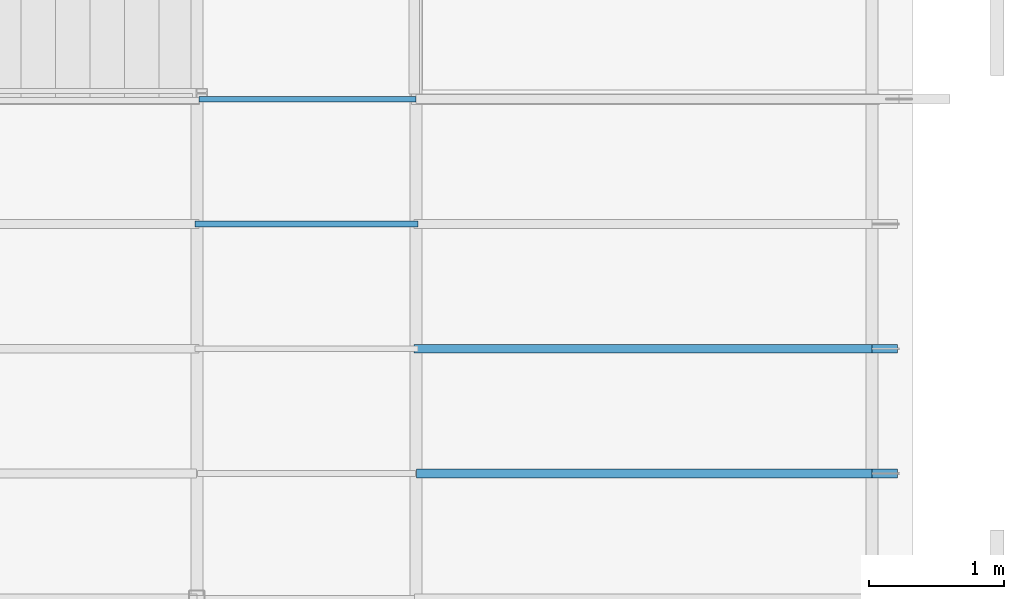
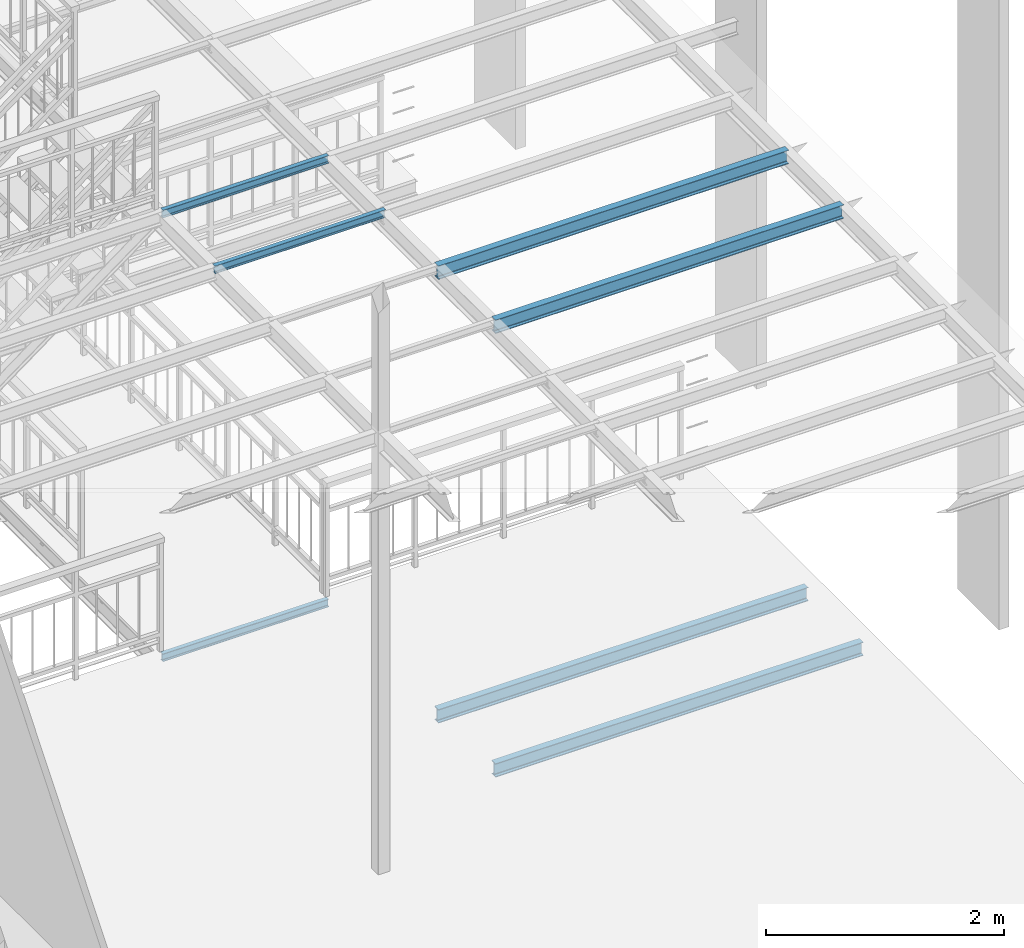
# One storey, part 8 of 33: 7 beams.
"""IFC2X3 building model written with IfcOpenShell, lengths in metres."""

from ifc_helpers import new_model, entity, si_unit, converted_unit, derived_unit, direction, frame, frame_2d, origin, place, context, subcontext, project, spatial, polyline, circle_curve, parameter, trimmed, segment, composite_curve, outline, extrude, material, type_object, element, save


model = new_model("IFC2X3")

# Units and contexts
model_context = context("Model", 3, precision=1e-05, world=origin(), true_north=direction((6.12303176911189e-17, 1.0)))
body_context = subcontext(model_context, "Body", "Model", "MODEL_VIEW")
ifc_project = project(units=[si_unit("LENGTHUNIT", "METRE"), si_unit("AREAUNIT", "SQUARE_METRE"), si_unit("VOLUMEUNIT", "CUBIC_METRE"), converted_unit("PLANEANGLEUNIT", "DEGREE", entity("IfcRatioMeasure", 0.0174532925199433), si_unit("PLANEANGLEUNIT", "RADIAN"), dimensions=[0, 0, 0, 0, 0, 0, 0]), si_unit("MASSUNIT", "GRAM", prefix="KILO"), derived_unit("MASSDENSITYUNIT", [(si_unit("MASSUNIT", "GRAM", prefix="KILO"), 1), (si_unit("LENGTHUNIT", "METRE"), -3)]), derived_unit("MOMENTOFINERTIAUNIT", [(si_unit("LENGTHUNIT", "METRE"), 4)]), si_unit("TIMEUNIT", "SECOND"), si_unit("FREQUENCYUNIT", "HERTZ"), si_unit("THERMODYNAMICTEMPERATUREUNIT", "DEGREE_CELSIUS"), derived_unit("THERMALTRANSMITTANCEUNIT", [(si_unit("MASSUNIT", "GRAM", prefix="KILO"), 1), (si_unit("THERMODYNAMICTEMPERATUREUNIT", "KELVIN"), -1), (si_unit("TIMEUNIT", "SECOND"), -3)]), derived_unit("VOLUMETRICFLOWRATEUNIT", [(si_unit("LENGTHUNIT", "METRE"), 3), (si_unit("TIMEUNIT", "SECOND"), -1)]), si_unit("ELECTRICCURRENTUNIT", "AMPERE"), si_unit("ELECTRICVOLTAGEUNIT", "VOLT"), si_unit("POWERUNIT", "WATT"), si_unit("FORCEUNIT", "NEWTON", prefix="KILO"), si_unit("ILLUMINANCEUNIT", "LUX"), si_unit("LUMINOUSFLUXUNIT", "LUMEN"), si_unit("LUMINOUSINTENSITYUNIT", "CANDELA"), derived_unit("USERDEFINED", [(si_unit("MASSUNIT", "GRAM", prefix="KILO"), -1), (si_unit("LENGTHUNIT", "METRE"), -2), (si_unit("TIMEUNIT", "SECOND"), 3), (si_unit("LUMINOUSFLUXUNIT", "LUMEN"), 1)]), derived_unit("LINEARVELOCITYUNIT", [(si_unit("LENGTHUNIT", "METRE"), 1), (si_unit("TIMEUNIT", "SECOND"), -1)]), si_unit("PRESSUREUNIT", "PASCAL"), derived_unit("USERDEFINED", [(si_unit("LENGTHUNIT", "METRE"), -2), (si_unit("MASSUNIT", "GRAM", prefix="KILO"), 1), (si_unit("TIMEUNIT", "SECOND"), -2)]), derived_unit("LINEARFORCEUNIT", [(si_unit("MASSUNIT", "GRAM", prefix="KILO"), 1), (si_unit("LENGTHUNIT", "METRE"), 1), (si_unit("TIMEUNIT", "SECOND"), -2), (si_unit("LENGTHUNIT", "METRE"), -1)]), derived_unit("PLANARFORCEUNIT", [(si_unit("MASSUNIT", "GRAM", prefix="KILO"), 1), (si_unit("LENGTHUNIT", "METRE"), 1), (si_unit("TIMEUNIT", "SECOND"), -2), (si_unit("LENGTHUNIT", "METRE"), -2)])], contexts=[model_context])

# Site, building, storey
site_placement = place(None, origin())
site = spatial("IfcSite", under=ifc_project, at=site_placement, Name="Superficie", CompositionType="ELEMENT")
building_placement = place(site_placement, origin())
building = spatial("IfcBuilding", under=site, at=building_placement, Name="Telegestiones", CompositionType="ELEMENT")
storey_placement = place(building_placement, frame((0.0, 0.0, 4.94)))
storey = spatial("IfcBuildingStorey", under=building, at=storey_placement, Name="Nivel 1_NPT", CompositionType="ELEMENT", Elevation=4.94)

# Beams
ifc_material = material(Name="Metal - Acero - 345 MPa")
beam_type_1 = type_object("IfcBeamType", Name="IPN - Secciones en I con alas cónicas:IPN 140", PredefinedType="NOTDEFINED")
beam_1_placement = place(storey_placement, frame((11.2748126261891, -0.370899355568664, 0.0)))
element("IfcBeam", 1, at=beam_1_placement, inside=storey, type_object=beam_type_1, material=ifc_material, Name="IPN - Secciones en I con alas cónicas:IPN 140", ObjectType="IPN - Secciones en I con alas cónicas:IPN 140", context=body_context, shape_type="SweptSolid", body=[
    extrude(outline(composite_curve([segment(polyline([(0.0666671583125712, -0.0330000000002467), (0.0699999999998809, -0.0330000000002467)]), True, "CONTINUOUS"), segment(polyline([(0.0699999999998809, -0.0330000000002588), (0.0700000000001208, 0.0329999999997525)]), True, "CONTINUOUS"), segment(polyline([(0.0700000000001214, 0.0329999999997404), (0.0666671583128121, 0.0329999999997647)]), True, "CONTINUOUS"), segment(trimmed(circle_curve(frame_2d((0.0666671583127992, 0.0295999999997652), x_axis=(0.0, 1.0)), 0.00339999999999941), [parameter(0.0)], [parameter(82.0303896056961)], True, "PARAMETER"), True, "CONTINUOUS"), segment(polyline([(0.0632999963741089, 0.0300714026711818), (0.0601763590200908, 0.00775970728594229)]), True, "CONTINUOUS"), segment(trimmed(circle_curve(frame_2d((0.0545314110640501, 0.00854999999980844), x_axis=(0.990341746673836, -0.138647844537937)), 0.0056999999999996), [parameter(277.969610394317)], [parameter(0.0)], True, "PARAMETER"), False, "CONTINUOUS"), segment(polyline([(0.0545314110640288, 0.00284999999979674), (-0.054531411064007, 0.00285000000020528)]), True, "CONTINUOUS"), segment(trimmed(circle_curve(frame_2d((-0.0545314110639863, 0.00855000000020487), x_axis=(0.0, -1.0)), 0.00569999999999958), [parameter(277.969610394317)], [parameter(0.0)], True, "PARAMETER"), False, "CONTINUOUS"), segment(polyline([(-0.0601763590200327, 0.00775970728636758), (-0.0632999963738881, 0.030071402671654)]), True, "CONTINUOUS"), segment(trimmed(circle_curve(frame_2d((-0.066667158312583, 0.0296000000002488), x_axis=(0.990341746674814, 0.138647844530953)), 0.00340000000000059), [parameter(0.0)], [parameter(82.0303896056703)], True, "PARAMETER"), True, "CONTINUOUS"), segment(polyline([(-0.0666671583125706, 0.0330000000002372), (-0.0699999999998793, 0.0330000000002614)]), True, "CONTINUOUS"), segment(polyline([(-0.0699999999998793, 0.0330000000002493), (-0.0700000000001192, -0.0329999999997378)]), True, "CONTINUOUS"), segment(polyline([(-0.0700000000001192, -0.0329999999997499), (-0.0666671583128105, -0.0329999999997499)]), True, "CONTINUOUS"), segment(trimmed(circle_curve(frame_2d((-0.0666671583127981, -0.0295999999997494), x_axis=(0.0, -1.0)), 0.00340000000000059), [parameter(0.0)], [parameter(82.0303896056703)], True, "PARAMETER"), True, "CONTINUOUS"), segment(polyline([(-0.0632999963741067, -0.0300714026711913), (-0.0601763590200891, -0.00775970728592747)]), True, "CONTINUOUS"), segment(trimmed(circle_curve(frame_2d((-0.0545314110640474, -0.00854999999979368), x_axis=(-0.990341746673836, 0.138647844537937)), 0.0056999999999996), [parameter(277.969610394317)], [parameter(0.0)], True, "PARAMETER"), False, "CONTINUOUS"), segment(polyline([(-0.0545314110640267, -0.00284999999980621), (0.0545314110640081, -0.00285000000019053)]), True, "CONTINUOUS"), segment(trimmed(circle_curve(frame_2d((0.0545314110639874, -0.00855000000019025), x_axis=(0.0, 1.0)), 0.00569999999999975), [parameter(277.969610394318)], [parameter(0.0)], True, "PARAMETER"), False, "CONTINUOUS"), segment(polyline([(0.0601763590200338, -0.00775970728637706), (0.0632999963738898, -0.0300714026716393)]), True, "CONTINUOUS"), segment(trimmed(circle_curve(frame_2d((0.0666671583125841, -0.0296000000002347), x_axis=(-0.990341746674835, -0.138647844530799)), 0.0033999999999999), [parameter(0.0)], [parameter(82.0303896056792)], True, "PARAMETER"), True, "CONTINUOUS")], self_intersect=False)), frame((-0.014999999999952, 0.0, -0.100000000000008), z_axis=(1.0, 0.0, 0.0), x_axis=(0.0, 0.0, -1.0)), (0.0, 0.0, 1.0), 3.59499999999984),
])
beam_2_placement = place(storey_placement, frame((11.2748126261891, -1.2986460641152, 0.0)))
element("IfcBeam", 2, at=beam_2_placement, inside=storey, type_object=beam_type_1, material=ifc_material, Name="IPN - Secciones en I con alas cónicas:IPN 140", ObjectType="IPN - Secciones en I con alas cónicas:IPN 140", context=body_context, shape_type="SweptSolid", body=[
    extrude(outline(composite_curve([segment(polyline([(0.0666671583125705, -0.0330000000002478), (0.0699999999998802, -0.0330000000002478)]), True, "CONTINUOUS"), segment(polyline([(0.0699999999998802, -0.03300000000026), (0.0700000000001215, 0.0329999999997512)]), True, "CONTINUOUS"), segment(polyline([(0.070000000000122, 0.0329999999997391), (0.0666671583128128, 0.0329999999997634)]), True, "CONTINUOUS"), segment(trimmed(circle_curve(frame_2d((0.0666671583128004, 0.0295999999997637), x_axis=(0.0, 1.0)), 0.00339999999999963), [parameter(0.0)], [parameter(82.0303896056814)], True, "PARAMETER"), True, "CONTINUOUS"), segment(polyline([(0.0632999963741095, 0.0300714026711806), (0.0601763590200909, 0.007759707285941)]), True, "CONTINUOUS"), segment(trimmed(circle_curve(frame_2d((0.0545314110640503, 0.0085499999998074), x_axis=(0.990341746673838, -0.138647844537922)), 0.0056999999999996), [parameter(277.969610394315)], [parameter(0.0)], True, "PARAMETER"), False, "CONTINUOUS"), segment(polyline([(0.0545314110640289, 0.0028499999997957), (-0.054531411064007, 0.00285000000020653)]), True, "CONTINUOUS"), segment(trimmed(circle_curve(frame_2d((-0.0545314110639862, 0.00855000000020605), x_axis=(0.0, -1.0)), 0.00569999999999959), [parameter(277.969610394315)], [parameter(0.0)], True, "PARAMETER"), False, "CONTINUOUS"), segment(polyline([(-0.0601763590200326, 0.00775970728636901), (-0.0632999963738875, 0.0300714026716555)]), True, "CONTINUOUS"), segment(trimmed(circle_curve(frame_2d((-0.0666671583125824, 0.02960000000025), x_axis=(0.990341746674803, 0.13864784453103)), 0.00340000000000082), [parameter(0.0)], [parameter(82.0303896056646)], True, "PARAMETER"), True, "CONTINUOUS"), segment(polyline([(-0.0666671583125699, 0.0330000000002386), (-0.0699999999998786, 0.033000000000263)]), True, "CONTINUOUS"), segment(polyline([(-0.0699999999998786, 0.0330000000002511), (-0.0700000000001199, -0.0329999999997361)]), True, "CONTINUOUS"), segment(polyline([(-0.0700000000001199, -0.0329999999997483), (-0.0666671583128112, -0.0329999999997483)]), True, "CONTINUOUS"), segment(trimmed(circle_curve(frame_2d((-0.0666671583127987, -0.0295999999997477), x_axis=(0.0, -1.0)), 0.00340000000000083), [parameter(0.0)], [parameter(82.0303896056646)], True, "PARAMETER"), True, "CONTINUOUS"), segment(polyline([(-0.0632999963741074, -0.0300714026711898), (-0.0601763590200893, -0.00775970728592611)]), True, "CONTINUOUS"), segment(trimmed(circle_curve(frame_2d((-0.0545314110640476, -0.00854999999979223), x_axis=(-0.990341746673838, 0.138647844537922)), 0.00569999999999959), [parameter(277.969610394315)], [parameter(0.0)], True, "PARAMETER"), False, "CONTINUOUS"), segment(polyline([(-0.0545314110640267, -0.0028499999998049), (0.0545314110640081, -0.00285000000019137)]), True, "CONTINUOUS"), segment(trimmed(circle_curve(frame_2d((0.0545314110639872, -0.00855000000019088), x_axis=(0.0, 1.0)), 0.0056999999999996), [parameter(277.969610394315)], [parameter(0.0)], True, "PARAMETER"), False, "CONTINUOUS"), segment(polyline([(0.0601763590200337, -0.00775970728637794), (0.0632999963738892, -0.0300714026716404)]), True, "CONTINUOUS"), segment(trimmed(circle_curve(frame_2d((0.0666671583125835, -0.0296000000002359), x_axis=(-0.990341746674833, -0.138647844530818)), 0.00340000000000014), [parameter(0.0)], [parameter(82.0303896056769)], True, "PARAMETER"), True, "CONTINUOUS")], self_intersect=False)), frame((0.00400000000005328, 0.0, -0.100000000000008), z_axis=(1.0, 0.0, 0.0), x_axis=(0.0, 0.0, -1.0)), (0.0, 0.0, 1.0), 3.57599999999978),
])
beam_3_placement = place(storey_placement, frame((11.2748126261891, -0.370899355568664, 4.56)))
element("IfcBeam", 3, at=beam_3_placement, inside=storey, type_object=beam_type_1, material=ifc_material, Name="IPN - Secciones en I con alas cónicas:IPN 140", ObjectType="IPN - Secciones en I con alas cónicas:IPN 140", context=body_context, shape_type="SweptSolid", body=[
    extrude(outline(composite_curve([segment(polyline([(0.0666671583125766, -0.0330000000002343), (0.0699999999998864, -0.0330000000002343)]), True, "CONTINUOUS"), segment(polyline([(0.0699999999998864, -0.0330000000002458), (0.0700000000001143, 0.0329999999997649)]), True, "CONTINUOUS"), segment(polyline([(0.0700000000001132, 0.0329999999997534), (0.0666671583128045, 0.0329999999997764)]), True, "CONTINUOUS"), segment(trimmed(circle_curve(frame_2d((0.0666671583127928, 0.0295999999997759), x_axis=(0.0, 1.0)), 0.00340000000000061), [parameter(0.0)], [parameter(82.0303896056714)], True, "PARAMETER"), True, "CONTINUOUS"), segment(polyline([(0.0632999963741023, 0.0300714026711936), (0.0601763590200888, 0.00775970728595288)]), True, "CONTINUOUS"), segment(trimmed(circle_curve(frame_2d((0.0545314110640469, 0.008549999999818), x_axis=(0.990341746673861, -0.138647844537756)), 0.0056999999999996), [parameter(277.969610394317)], [parameter(0.0)], True, "PARAMETER"), False, "CONTINUOUS"), segment(polyline([(0.0545314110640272, 0.00284999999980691), (-0.0545314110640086, 0.00285000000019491)]), True, "CONTINUOUS"), segment(trimmed(circle_curve(frame_2d((-0.054531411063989, 0.0085500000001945), x_axis=(0.0, -1.0)), 0.00569999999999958), [parameter(277.969610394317)], [parameter(0.0)], True, "PARAMETER"), False, "CONTINUOUS"), segment(polyline([(-0.0601763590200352, 0.00775970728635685), (-0.0632999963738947, 0.0300714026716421)]), True, "CONTINUOUS"), segment(trimmed(circle_curve(frame_2d((-0.0666671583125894, 0.0296000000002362), x_axis=(0.990341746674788, 0.138647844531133)), 0.00340000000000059), [parameter(0.0)], [parameter(82.0303896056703)], True, "PARAMETER"), True, "CONTINUOUS"), segment(polyline([(-0.0666671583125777, 0.0330000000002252), (-0.0699999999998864, 0.0330000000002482)]), True, "CONTINUOUS"), segment(polyline([(-0.0699999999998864, 0.0330000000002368), (-0.0700000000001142, -0.032999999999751)]), True, "CONTINUOUS"), segment(polyline([(-0.0700000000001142, -0.0329999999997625), (-0.0666671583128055, -0.0329999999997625)]), True, "CONTINUOUS"), segment(trimmed(circle_curve(frame_2d((-0.0666671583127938, -0.029599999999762), x_axis=(0.0, -1.0)), 0.00340000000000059), [parameter(0.0)], [parameter(82.0303896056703)], True, "PARAMETER"), True, "CONTINUOUS"), segment(polyline([(-0.0632999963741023, -0.0300714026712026), (-0.0601763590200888, -0.00775970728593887)]), True, "CONTINUOUS"), segment(trimmed(circle_curve(frame_2d((-0.0545314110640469, -0.00854999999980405), x_axis=(-0.990341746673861, 0.138647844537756)), 0.0056999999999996), [parameter(277.969610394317)], [parameter(0.0)], True, "PARAMETER"), False, "CONTINUOUS"), segment(polyline([(-0.0545314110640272, -0.00284999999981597), (0.0545314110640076, -0.00285000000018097)]), True, "CONTINUOUS"), segment(trimmed(circle_curve(frame_2d((0.0545314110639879, -0.00855000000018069), x_axis=(0.0, 1.0)), 0.00569999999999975), [parameter(277.969610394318)], [parameter(0.0)], True, "PARAMETER"), False, "CONTINUOUS"), segment(polyline([(0.0601763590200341, -0.00775970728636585), (0.0632999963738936, -0.0300714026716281)]), True, "CONTINUOUS"), segment(trimmed(circle_curve(frame_2d((0.0666671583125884, -0.0296000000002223), x_axis=(-0.990341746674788, -0.138647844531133)), 0.00340000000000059), [parameter(0.0)], [parameter(82.0303896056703)], True, "PARAMETER"), True, "CONTINUOUS")], self_intersect=False)), frame((-0.0149999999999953, 0.0, -0.100000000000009), z_axis=(1.0, 0.0, 0.0), x_axis=(0.0, 0.0, -1.0)), (0.0, 0.0, 1.0), 3.405),
])
beam_4_placement = place(storey_placement, frame((11.2748126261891, -1.2986460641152, 4.56)))
element("IfcBeam", 4, at=beam_4_placement, inside=storey, type_object=beam_type_1, material=ifc_material, Name="IPN - Secciones en I con alas cónicas:IPN 140", ObjectType="IPN - Secciones en I con alas cónicas:IPN 140", context=body_context, shape_type="SweptSolid", body=[
    extrude(outline(composite_curve([segment(polyline([(0.066667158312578, -0.0330000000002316), (0.0699999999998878, -0.0330000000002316)]), True, "CONTINUOUS"), segment(polyline([(0.0699999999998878, -0.0330000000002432), (0.0700000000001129, 0.0329999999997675)]), True, "CONTINUOUS"), segment(polyline([(0.0700000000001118, 0.0329999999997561), (0.0666671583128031, 0.0329999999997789)]), True, "CONTINUOUS"), segment(trimmed(circle_curve(frame_2d((0.0666671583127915, 0.029599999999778), x_axis=(0.0, 1.0)), 0.00340000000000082), [parameter(0.0)], [parameter(82.0303896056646)], True, "PARAMETER"), True, "CONTINUOUS"), segment(polyline([(0.0632999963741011, 0.030071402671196), (0.0601763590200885, 0.00775970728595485)]), True, "CONTINUOUS"), segment(trimmed(circle_curve(frame_2d((0.0545314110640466, 0.00854999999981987), x_axis=(0.990341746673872, -0.13864784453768)), 0.0056999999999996), [parameter(277.969610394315)], [parameter(0.0)], True, "PARAMETER"), False, "CONTINUOUS"), segment(polyline([(0.0545314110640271, 0.00284999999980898), (-0.0545314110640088, 0.00285000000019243)]), True, "CONTINUOUS"), segment(trimmed(circle_curve(frame_2d((-0.0545314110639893, 0.00855000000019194), x_axis=(0.0, -1.0)), 0.00569999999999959), [parameter(277.969610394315)], [parameter(0.0)], True, "PARAMETER"), False, "CONTINUOUS"), segment(polyline([(-0.0601763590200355, 0.00775970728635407), (-0.0632999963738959, 0.0300714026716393)]), True, "CONTINUOUS"), segment(trimmed(circle_curve(frame_2d((-0.0666671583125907, 0.0296000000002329), x_axis=(0.990341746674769, 0.138647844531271)), 0.00340000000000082), [parameter(0.0)], [parameter(82.0303896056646)], True, "PARAMETER"), True, "CONTINUOUS"), segment(polyline([(-0.0666671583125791, 0.0330000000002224), (-0.0699999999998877, 0.0330000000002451)]), True, "CONTINUOUS"), segment(polyline([(-0.0699999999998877, 0.0330000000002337), (-0.0700000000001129, -0.032999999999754)]), True, "CONTINUOUS"), segment(polyline([(-0.0700000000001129, -0.0329999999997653), (-0.0666671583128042, -0.0329999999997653)]), True, "CONTINUOUS"), segment(trimmed(circle_curve(frame_2d((-0.0666671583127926, -0.0295999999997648), x_axis=(0.0, -1.0)), 0.00340000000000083), [parameter(0.0)], [parameter(82.0303896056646)], True, "PARAMETER"), True, "CONTINUOUS"), segment(polyline([(-0.0632999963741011, -0.0300714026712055), (-0.0601763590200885, -0.00775970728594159)]), True, "CONTINUOUS"), segment(trimmed(circle_curve(frame_2d((-0.0545314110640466, -0.00854999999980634), x_axis=(-0.990341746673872, 0.138647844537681)), 0.00569999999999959), [parameter(277.969610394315)], [parameter(0.0)], True, "PARAMETER"), False, "CONTINUOUS"), segment(polyline([(-0.0545314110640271, -0.00284999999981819), (0.0545314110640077, -0.00285000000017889)]), True, "CONTINUOUS"), segment(trimmed(circle_curve(frame_2d((0.0545314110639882, -0.00855000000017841), x_axis=(0.0, 1.0)), 0.0056999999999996), [parameter(277.969610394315)], [parameter(0.0)], True, "PARAMETER"), False, "CONTINUOUS"), segment(polyline([(0.0601763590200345, -0.00775970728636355), (0.0632999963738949, -0.0300714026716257)]), True, "CONTINUOUS"), segment(trimmed(circle_curve(frame_2d((0.0666671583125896, -0.0296000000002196), x_axis=(-0.990341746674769, -0.138647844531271)), 0.00340000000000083), [parameter(0.0)], [parameter(82.0303896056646)], True, "PARAMETER"), True, "CONTINUOUS")], self_intersect=False)), frame((0.00400000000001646, 0.0, -0.100000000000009), z_axis=(1.0, 0.0, 0.0), x_axis=(0.0, 0.0, -1.0)), (0.0, 0.0, 1.0), 3.386),
])
beam_type_2 = type_object("IfcBeamType", Name="IPN - Secciones en I con alas cónicas:IPN 80", PredefinedType="NOTDEFINED")
beam_5_placement = place(storey_placement, frame((9.64481262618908, 1.48459406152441, 0.0)))
element("IfcBeam", 5, at=beam_5_placement, inside=storey, type_object=beam_type_2, material=ifc_material, Name="IPN - Secciones en I con alas cónicas:IPN 80", ObjectType="IPN - Secciones en I con alas cónicas:IPN 80", context=body_context, shape_type="SweptSolid", body=[
    extrude(outline(composite_curve([segment(polyline([(0.0375704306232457, -0.0210000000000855), (0.0399999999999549, -0.0210000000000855)]), True, "CONTINUOUS"), segment(polyline([(0.0399999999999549, -0.0210000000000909), (0.0400000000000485, 0.0209999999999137)]), True, "CONTINUOUS"), segment(polyline([(0.0400000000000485, 0.0209999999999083), (0.0375704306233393, 0.0209999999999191)]), True, "CONTINUOUS"), segment(trimmed(circle_curve(frame_2d((0.0375704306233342, 0.0186999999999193), x_axis=(0.0, 1.0)), 0.00229999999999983), [parameter(0.0)], [parameter(82.030389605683)], True, "PARAMETER"), True, "CONTINUOUS"), segment(polyline([(0.0352926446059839, 0.019018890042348), (0.0333732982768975, 0.00530927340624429)]), True, "CONTINUOUS"), segment(trimmed(circle_curve(frame_2d((0.029510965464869, 0.00584999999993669), x_axis=(0.990341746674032, -0.13864784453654)), 0.0038999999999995), [parameter(277.969610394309)], [parameter(0.0)], True, "PARAMETER"), False, "CONTINUOUS"), segment(polyline([(0.0295109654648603, 0.00194999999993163), (-0.0295109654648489, 0.00195000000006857)]), True, "CONTINUOUS"), segment(trimmed(circle_curve(frame_2d((-0.0295109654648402, 0.00585000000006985), x_axis=(0.0, -1.0)), 0.00390000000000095), [parameter(277.969610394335)], [parameter(0.0)], True, "PARAMETER"), False, "CONTINUOUS"), segment(polyline([(-0.0333732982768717, 0.00530927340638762), (-0.035292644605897, 0.0190188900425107)]), True, "CONTINUOUS"), segment(trimmed(circle_curve(frame_2d((-0.0375704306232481, 0.0187000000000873), x_axis=(0.990341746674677, 0.138647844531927)), 0.00229999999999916), [parameter(0.0)], [parameter(82.0303896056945)], True, "PARAMETER"), True, "CONTINUOUS"), segment(polyline([(-0.037570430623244, 0.0210000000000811), (-0.0399999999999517, 0.0210000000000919)]), True, "CONTINUOUS"), segment(polyline([(-0.0399999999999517, 0.0210000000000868), (-0.0400000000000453, -0.0209999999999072)]), True, "CONTINUOUS"), segment(polyline([(-0.0400000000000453, -0.0209999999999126), (-0.0375704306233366, -0.0209999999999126)]), True, "CONTINUOUS"), segment(trimmed(circle_curve(frame_2d((-0.0375704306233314, -0.0186999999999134), x_axis=(0.0, -1.0)), 0.00229999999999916), [parameter(0.0)], [parameter(82.0303896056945)], True, "PARAMETER"), True, "CONTINUOUS"), segment(polyline([(-0.0352926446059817, -0.0190188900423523), (-0.0333732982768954, -0.00530927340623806)]), True, "CONTINUOUS"), segment(trimmed(circle_curve(frame_2d((-0.0295109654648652, -0.00584999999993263), x_axis=(-0.990341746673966, 0.138647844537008)), 0.00390000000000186), [parameter(277.96961039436)], [parameter(0.0)], True, "PARAMETER"), False, "CONTINUOUS"), segment(polyline([(-0.0295109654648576, -0.00194999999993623), (0.0295109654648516, -0.00195000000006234)]), True, "CONTINUOUS"), segment(trimmed(circle_curve(frame_2d((0.0295109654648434, -0.00585000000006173), x_axis=(0.0, 1.0)), 0.00389999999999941), [parameter(277.969610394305)], [parameter(0.0)], True, "PARAMETER"), False, "CONTINUOUS"), segment(polyline([(0.0333732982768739, -0.00530927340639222), (0.0352926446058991, -0.0190188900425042)]), True, "CONTINUOUS"), segment(trimmed(circle_curve(frame_2d((0.0375704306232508, -0.0187000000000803), x_axis=(-0.990341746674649, -0.138647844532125)), 0.00229999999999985), [parameter(0.0)], [parameter(82.030389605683)], True, "PARAMETER"), True, "CONTINUOUS")], self_intersect=False)), frame((0.0150000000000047, 0.0, -0.0700000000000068), z_axis=(1.0, 0.0, 0.0), x_axis=(0.0, 0.0, -1.0)), (0.0, 0.0, 1.0), 1.613),
])
beam_6_placement = place(storey_placement, frame((9.64481262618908, 1.48459406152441, 4.56)))
element("IfcBeam", 6, at=beam_6_placement, inside=storey, type_object=beam_type_2, material=ifc_material, Name="IPN - Secciones en I con alas cónicas:IPN 80", ObjectType="IPN - Secciones en I con alas cónicas:IPN 80", context=body_context, shape_type="SweptSolid", body=[
    extrude(outline(composite_curve([segment(polyline([(0.0375704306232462, -0.0210000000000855), (0.0399999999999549, -0.0210000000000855)]), True, "CONTINUOUS"), segment(polyline([(0.0399999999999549, -0.0210000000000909), (0.0400000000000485, 0.0209999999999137)]), True, "CONTINUOUS"), segment(polyline([(0.0400000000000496, 0.0209999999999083), (0.0375704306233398, 0.0209999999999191)]), True, "CONTINUOUS"), segment(trimmed(circle_curve(frame_2d((0.0375704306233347, 0.0186999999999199), x_axis=(0.0, 1.0)), 0.00229999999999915), [parameter(0.0)], [parameter(82.0303896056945)], True, "PARAMETER"), True, "CONTINUOUS"), segment(polyline([(0.035292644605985, 0.019018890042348), (0.0333732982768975, 0.00530927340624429)]), True, "CONTINUOUS"), segment(trimmed(circle_curve(frame_2d((0.0295109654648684, 0.00584999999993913), x_axis=(0.990341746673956, -0.138647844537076)), 0.00390000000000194), [parameter(277.969610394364)], [parameter(0.0)], True, "PARAMETER"), False, "CONTINUOUS"), segment(polyline([(0.0295109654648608, 0.00194999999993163), (-0.0295109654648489, 0.00195000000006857)]), True, "CONTINUOUS"), segment(trimmed(circle_curve(frame_2d((-0.0295109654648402, 0.00585000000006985), x_axis=(0.0, -1.0)), 0.00390000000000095), [parameter(277.969610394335)], [parameter(0.0)], True, "PARAMETER"), False, "CONTINUOUS"), segment(polyline([(-0.0333732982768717, 0.00530927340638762), (-0.035292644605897, 0.0190188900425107)]), True, "CONTINUOUS"), segment(trimmed(circle_curve(frame_2d((-0.0375704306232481, 0.0187000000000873), x_axis=(0.990341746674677, 0.138647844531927)), 0.00229999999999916), [parameter(0.0)], [parameter(82.0303896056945)], True, "PARAMETER"), True, "CONTINUOUS"), segment(polyline([(-0.037570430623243, 0.0210000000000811), (-0.0399999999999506, 0.0210000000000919)]), True, "CONTINUOUS"), segment(polyline([(-0.0399999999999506, 0.0210000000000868), (-0.0400000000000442, -0.0209999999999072)]), True, "CONTINUOUS"), segment(polyline([(-0.0400000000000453, -0.0209999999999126), (-0.0375704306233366, -0.0209999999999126)]), True, "CONTINUOUS"), segment(trimmed(circle_curve(frame_2d((-0.0375704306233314, -0.0186999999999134), x_axis=(0.0, -1.0)), 0.00229999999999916), [parameter(0.0)], [parameter(82.0303896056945)], True, "PARAMETER"), True, "CONTINUOUS"), segment(polyline([(-0.0352926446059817, -0.0190188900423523), (-0.0333732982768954, -0.00530927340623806)]), True, "CONTINUOUS"), segment(trimmed(circle_curve(frame_2d((-0.0295109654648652, -0.00584999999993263), x_axis=(-0.990341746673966, 0.138647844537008)), 0.00390000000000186), [parameter(277.96961039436)], [parameter(0.0)], True, "PARAMETER"), False, "CONTINUOUS"), segment(polyline([(-0.0295109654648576, -0.00194999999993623), (0.0295109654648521, -0.00195000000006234)]), True, "CONTINUOUS"), segment(trimmed(circle_curve(frame_2d((0.0295109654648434, -0.00585000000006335), x_axis=(0.0, 1.0)), 0.00390000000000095), [parameter(277.969610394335)], [parameter(0.0)], True, "PARAMETER"), False, "CONTINUOUS"), segment(polyline([(0.0333732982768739, -0.00530927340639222), (0.0352926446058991, -0.0190188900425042)]), True, "CONTINUOUS"), segment(trimmed(circle_curve(frame_2d((0.0375704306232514, -0.0187000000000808), x_axis=(-0.990341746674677, -0.138647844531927)), 0.00229999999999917), [parameter(0.0)], [parameter(82.0303896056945)], True, "PARAMETER"), True, "CONTINUOUS")], self_intersect=False)), frame((0.0150000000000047, 0.0, -0.0700000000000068), z_axis=(1.0, 0.0, 0.0), x_axis=(0.0, 0.0, -1.0)), (0.0, 0.0, 1.0), 1.613),
])
beam_7_placement = place(storey_placement, frame((9.64481262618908, 0.556847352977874, 4.56)))
element("IfcBeam", 7, at=beam_7_placement, inside=storey, type_object=beam_type_2, material=ifc_material, Name="IPN - Secciones en I con alas cónicas:IPN 80", ObjectType="IPN - Secciones en I con alas cónicas:IPN 80", context=body_context, shape_type="SweptSolid", body=[
    extrude(outline(composite_curve([segment(polyline([(0.0375704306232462, -0.0210000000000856), (0.0399999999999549, -0.0210000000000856)]), True, "CONTINUOUS"), segment(polyline([(0.0399999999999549, -0.0210000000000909), (0.0400000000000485, 0.0209999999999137)]), True, "CONTINUOUS"), segment(polyline([(0.0400000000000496, 0.0209999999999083), (0.0375704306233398, 0.0209999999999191)]), True, "CONTINUOUS"), segment(trimmed(circle_curve(frame_2d((0.0375704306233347, 0.01869999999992), x_axis=(0.0, 1.0)), 0.00229999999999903), [parameter(0.0)], [parameter(82.0303896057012)], True, "PARAMETER"), True, "CONTINUOUS"), segment(polyline([(0.035292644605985, 0.019018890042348), (0.0333732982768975, 0.00530927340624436)]), True, "CONTINUOUS"), segment(trimmed(circle_curve(frame_2d((0.0295109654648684, 0.00584999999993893), x_axis=(0.990341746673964, -0.138647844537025)), 0.00390000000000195), [parameter(277.969610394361)], [parameter(0.0)], True, "PARAMETER"), False, "CONTINUOUS"), segment(polyline([(0.0295109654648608, 0.00194999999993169), (-0.0295109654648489, 0.00195000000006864)]), True, "CONTINUOUS"), segment(trimmed(circle_curve(frame_2d((-0.0295109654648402, 0.00585000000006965), x_axis=(0.0, -1.0)), 0.00390000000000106), [parameter(277.969610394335)], [parameter(0.0)], True, "PARAMETER"), False, "CONTINUOUS"), segment(polyline([(-0.0333732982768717, 0.00530927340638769), (-0.035292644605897, 0.0190188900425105)]), True, "CONTINUOUS"), segment(trimmed(circle_curve(frame_2d((-0.0375704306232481, 0.0187000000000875), x_axis=(0.990341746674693, 0.138647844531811)), 0.00229999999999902), [parameter(0.0)], [parameter(82.0303896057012)], True, "PARAMETER"), True, "CONTINUOUS"), segment(polyline([(-0.037570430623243, 0.0210000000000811), (-0.0399999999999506, 0.0210000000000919)]), True, "CONTINUOUS"), segment(polyline([(-0.0399999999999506, 0.0210000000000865), (-0.0400000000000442, -0.0209999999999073)]), True, "CONTINUOUS"), segment(polyline([(-0.0400000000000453, -0.0209999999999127), (-0.0375704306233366, -0.0209999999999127)]), True, "CONTINUOUS"), segment(trimmed(circle_curve(frame_2d((-0.0375704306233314, -0.0186999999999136), x_axis=(0.0, -1.0)), 0.00229999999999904), [parameter(0.0)], [parameter(82.0303896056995)], True, "PARAMETER"), True, "CONTINUOUS"), segment(polyline([(-0.0352926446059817, -0.0190188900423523), (-0.0333732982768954, -0.00530927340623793)]), True, "CONTINUOUS"), segment(trimmed(circle_curve(frame_2d((-0.0295109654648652, -0.00584999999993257), x_axis=(-0.990341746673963, 0.138647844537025)), 0.00390000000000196), [parameter(277.969610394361)], [parameter(0.0)], True, "PARAMETER"), False, "CONTINUOUS"), segment(polyline([(-0.0295109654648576, -0.00194999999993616), (0.0295109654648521, -0.00195000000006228)]), True, "CONTINUOUS"), segment(trimmed(circle_curve(frame_2d((0.0295109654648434, -0.00585000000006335), x_axis=(0.0, 1.0)), 0.00390000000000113), [parameter(277.969610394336)], [parameter(0.0)], True, "PARAMETER"), False, "CONTINUOUS"), segment(polyline([(0.0333732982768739, -0.00530927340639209), (0.0352926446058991, -0.0190188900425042)]), True, "CONTINUOUS"), segment(trimmed(circle_curve(frame_2d((0.0375704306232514, -0.0187000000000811), x_axis=(-0.990341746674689, -0.13864784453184)), 0.00229999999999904), [parameter(0.0)], [parameter(82.0303896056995)], True, "PARAMETER"), True, "CONTINUOUS")], self_intersect=False)), frame((-0.0149999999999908, 0.0, -0.0700000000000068), z_axis=(1.0, 0.0, 0.0), x_axis=(0.0, 0.0, -1.0)), (0.0, 0.0, 1.0), 1.66),
])

save(model, "model.ifc")
